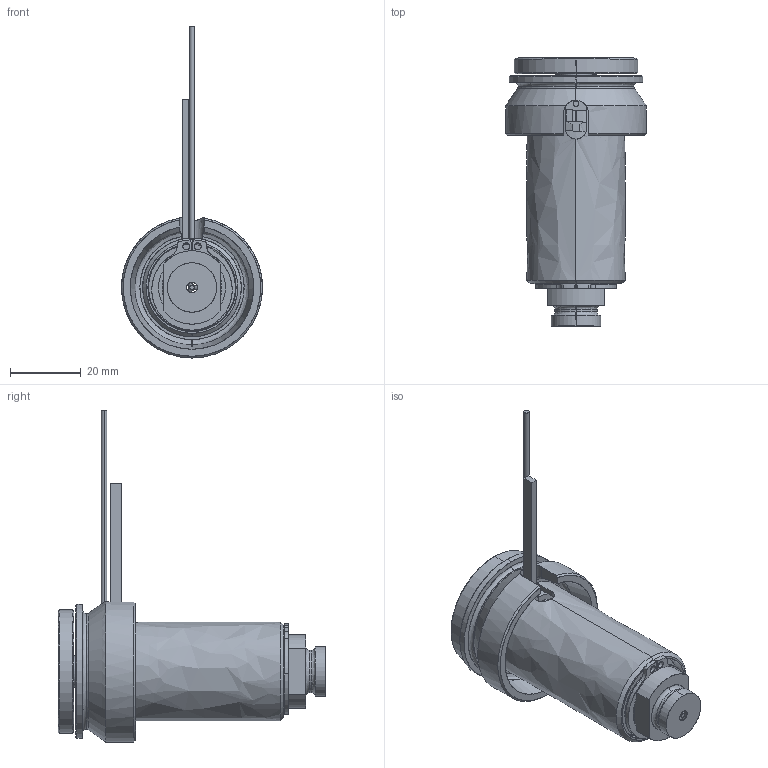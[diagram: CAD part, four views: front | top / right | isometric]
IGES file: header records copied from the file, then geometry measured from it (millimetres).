
Start section: SolidWorks IGES file using analytic representation for surfaces
Global section: file name: C:\Documents and Settings\ws-20\Desktop\TEM\UGEP4101-S-A-1 [Øf-1.31 P-0 ØC-09].IGS; native system: SolidWorks 2012; preprocessor: SolidWorks 2012; author: ws-20; date: 120426.084829; units: millimetre
Bounding box: 40 x 76 x 94.15 mm (x, y, z)
Surface area: 24659.4 mm2 (no closed solid volume)
Topology: 0 solids, 0 shells, 117 faces, 2008 edges, 2008 vertices
Faces by surface type: revolution 70, bspline 47
